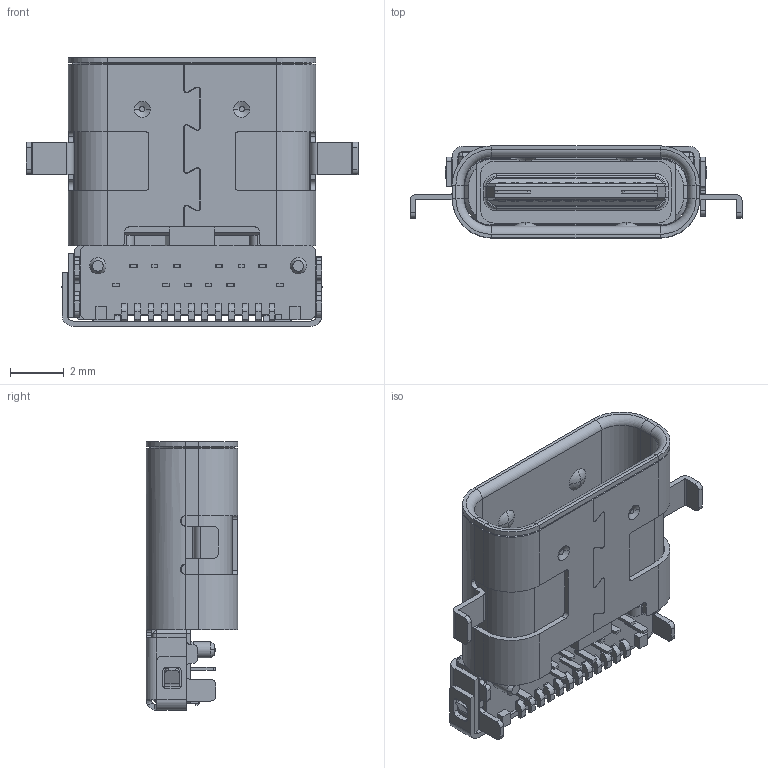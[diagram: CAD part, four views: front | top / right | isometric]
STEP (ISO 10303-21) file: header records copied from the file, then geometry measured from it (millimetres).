
FILE_DESCRIPTION((''),'2;1');
FILE_NAME('ASM0001_ASM','2020-08-22T',('Administrator'),(''),'PRO/ENGINEER BY PARAMETRIC TECHNOLOGY CORPORATION, 2013040','PRO/ENGINEER BY PARAMETRIC TECHNOLOGY CORPORATION, 2013040','');
FILE_SCHEMA(('CONFIG_CONTROL_DESIGN'));
Length unit declared in the file: millimetre
Products named in the file (1): ASM0001_ASM
Bounding box: 12.35 x 3.42 x 10 mm (x, y, z)
Volume: 136.6 mm3; surface area: 949.1 mm2
Topology: 1 solids, 75 shells, 1897 faces, 4991 edges, 3205 vertices
Faces by surface type: plane 1509, cylinder 254, cone 48, sphere 48, torus 20, extrusion 16, bspline 2
Entity records: 57865 total; most frequent: CARTESIAN_POINT 10950, ORIENTED_EDGE 9878, DIRECTION 9298, EDGE_CURVE 4939, VECTOR 4150, LINE 4134, VERTEX_POINT 3205, AXIS2_PLACEMENT_3D 2574
